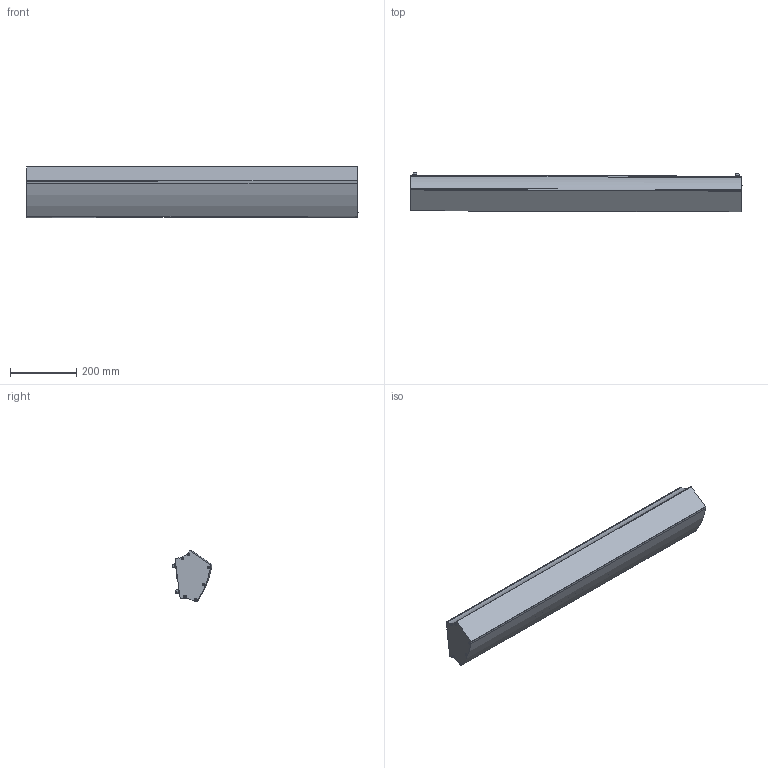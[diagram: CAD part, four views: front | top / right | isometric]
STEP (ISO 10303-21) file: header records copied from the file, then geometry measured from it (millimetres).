
FILE_DESCRIPTION(/* description */ (''),/* implementation_level */ '2;1');
FILE_NAME(/* name */ 'C:\Arbeitsbereich\Konstruktion\008_Dalis_862\3D-Dummy\Dalis-862_3D_customer.stp',/* time_stamp */ '2017-02-28T19:42:03+01:00',/* author */ ('t.fauck'),/* organization */ (''),/* preprocessor_version */ 'ST-DEVELOPER v15.2',/* originating_system */ 'Autodesk Inventor 2014',/* authorisation */ '');
FILE_SCHEMA (('AUTOMOTIVE_DESIGN { 1 0 10303 214 3 1 1 }'));
Length unit declared in the file: centimetre
Products named in the file (1): test5
Bounding box: 1004.79 x 120.83 x 155.01 mm (x, y, z)
Volume: 10494071.3 mm3; surface area: 560394 mm2
Topology: 1 solids, 7 shells, 358 faces, 798 edges, 511 vertices
Faces by surface type: plane 143, cylinder 88, torus 65, cone 32, sphere 18, bspline 12
Full cylindrical faces by diameter (mm): 2.3 x14, 4 x12, 4.2 x5, 4.616 x1, 5 x4, 6 x4, 7.2 x14, 7.6 x12, 10 x4, 11.95 x3, 18.95 x3
Entity records: 9099 total; most frequent: CARTESIAN_POINT 1867, DIRECTION 1466, ORIENTED_EDGE 1138, AXIS2_PLACEMENT_3D 634, EDGE_LOOP 592, EDGE_CURVE 569, VERTEX_POINT 459, ADVANCED_FACE 358
